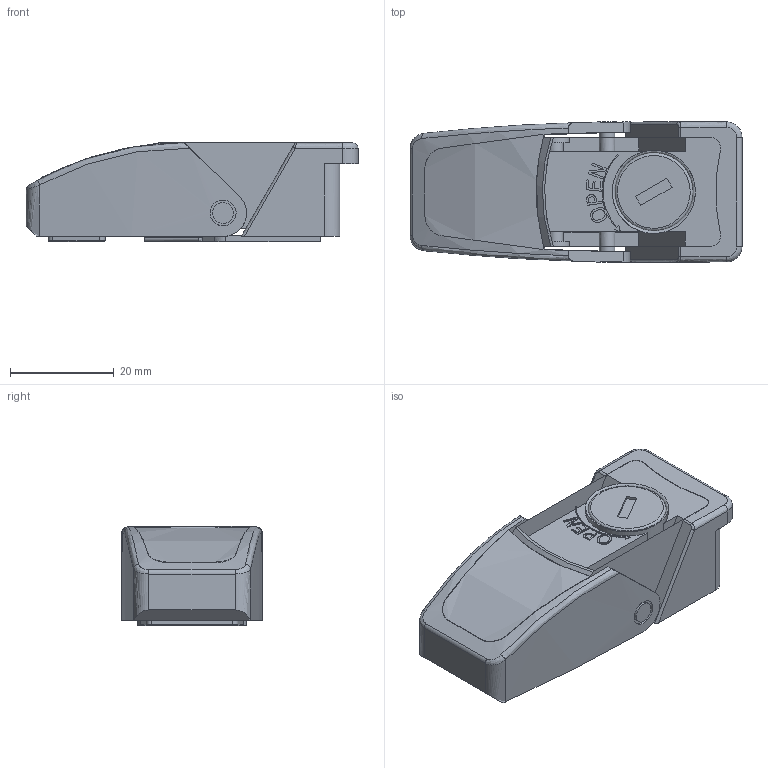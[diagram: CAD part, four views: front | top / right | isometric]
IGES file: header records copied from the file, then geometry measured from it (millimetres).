
Global section: file name: DR_C-CS1-K-316; native system: Autodesk Inventor 2015; preprocessor: unknown; author: Administrator; date: 20180301.102632; units: millimetre
Bounding box: 64 x 27 x 19.1 mm (x, y, z)
Volume: 12728.2 mm3; surface area: 15491.7 mm2
Topology: 7 solids, 7 shells, 343 faces, 887 edges, 570 vertices
Faces by surface type: bspline 343
